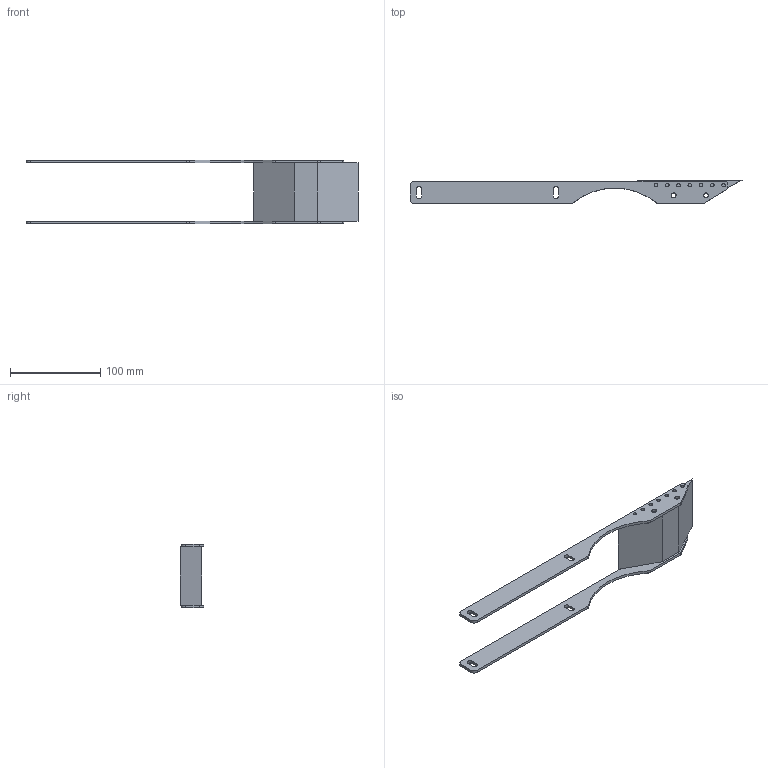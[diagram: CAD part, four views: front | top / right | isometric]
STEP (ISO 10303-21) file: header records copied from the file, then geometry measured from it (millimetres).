
FILE_DESCRIPTION (( 'STEP AP214' ), '1' );
FILE_NAME ('FSTB 65P.step', '2017-04-07T11:10:03', ( '' ), ( '' ), 'SwSTEP 2.0', 'SolidWorks 2016', '' );
FILE_SCHEMA (( 'AUTOMOTIVE_DESIGN' ));
Length unit declared in the file: millimetre
Products named in the file (1): FSTB 65P
Bounding box: 368.68 x 26.04 x 71 mm (x, y, z)
Volume: 149435.4 mm3; surface area: 56722.5 mm2
Topology: 3 solids, 3 shells, 96 faces, 270 edges, 180 vertices
Faces by surface type: cylinder 66, plane 30
Entity records: 4242 total; most frequent: DIRECTION 596, CARTESIAN_POINT 547, ORIENTED_EDGE 540, EDGE_CURVE 270, AXIS2_PLACEMENT_3D 229, VERTEX_POINT 180, EDGE_LOOP 146, LINE 138
